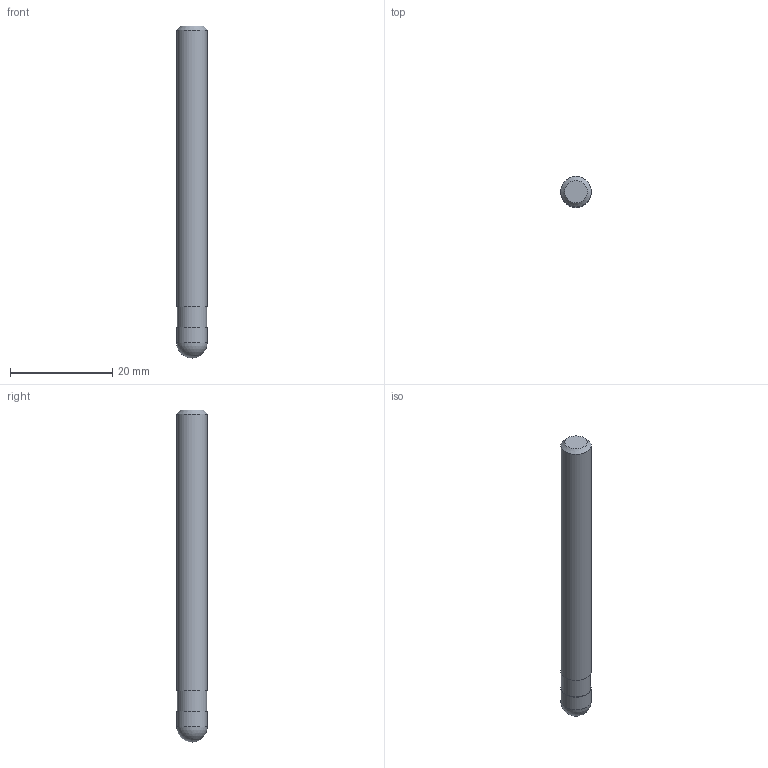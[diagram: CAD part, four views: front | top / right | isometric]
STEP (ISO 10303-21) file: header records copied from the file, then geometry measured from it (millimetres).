
FILE_DESCRIPTION((''),'2;1');
FILE_NAME('C:\Users\nsx150\AppData\Local\Temp\Mastercam 2021\I4OPY4JDSB\TEMP.step','2022-11-18T16:27:59',(''),(''),'STEP Write','Mastercam 2021 ... CNC Software, Inc.','');
FILE_SCHEMA(('AUTOMOTIVE_DESIGN'));
Length unit declared in the file: millimetre
Products named in the file (1): None
Bounding box: 6 x 6 x 65 mm (x, y, z)
Volume: 1793 mm3; surface area: 1296.6 mm2
Topology: 2 solids, 2 shells, 9 faces, 13 edges, 8 vertices
Faces by surface type: plane 4, cylinder 3, sphere 1, cone 1
Full cylindrical faces by diameter (mm): 5.7 x1, 6 x2
Entity records: 211 total; most frequent: DIRECTION 36, CARTESIAN_POINT 25, AXIS2_PLACEMENT_3D 18, ORIENTED_EDGE 14, EDGE_LOOP 14, STYLED_ITEM 12, ADVANCED_FACE 9, FACE_BOUND 8
